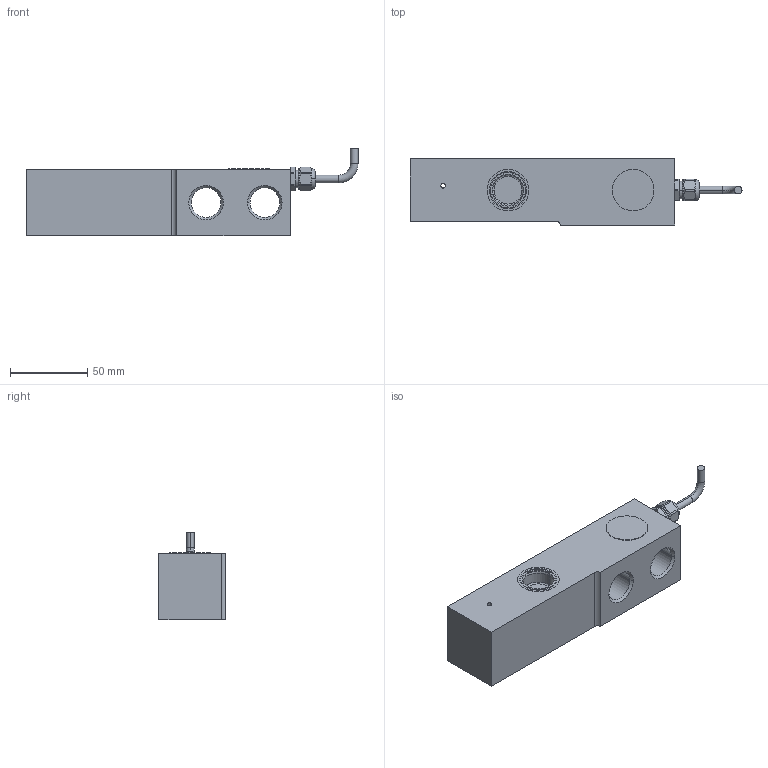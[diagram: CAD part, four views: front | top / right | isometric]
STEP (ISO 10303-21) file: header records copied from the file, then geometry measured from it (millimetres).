
FILE_DESCRIPTION((''),'2;1');
FILE_NAME('0745A-4400KG_ASM_1_SW0001','2014-07-28T',('wang-379'),(''),'PRO/ENGINEER BY PARAMETRIC TECHNOLOGY CORPORATION, 2013320','PRO/ENGINEER BY PARAMETRIC TECHNOLOGY CORPORATION, 2013320','');
FILE_SCHEMA(('CONFIG_CONTROL_DESIGN'));
Length unit declared in the file: millimetre
Products named in the file (1): 0745A-4400KG_ASM_1_SW0001
Bounding box: 215.19 x 42.88 x 56.87 mm (x, y, z)
Volume: 257058.5 mm3; surface area: 41974 mm2
Topology: 1 solids, 1 shells, 132 faces, 330 edges, 212 vertices
Faces by surface type: cylinder 45, plane 41, cone 24, torus 22
Entity records: 4314 total; most frequent: CARTESIAN_POINT 990, DIRECTION 744, ORIENTED_EDGE 660, EDGE_CURVE 330, AXIS2_PLACEMENT_3D 310, VERTEX_POINT 212, CIRCLE 178, EDGE_LOOP 152
